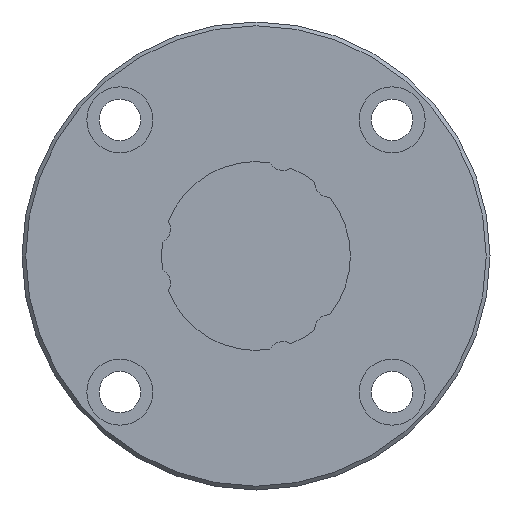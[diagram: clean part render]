
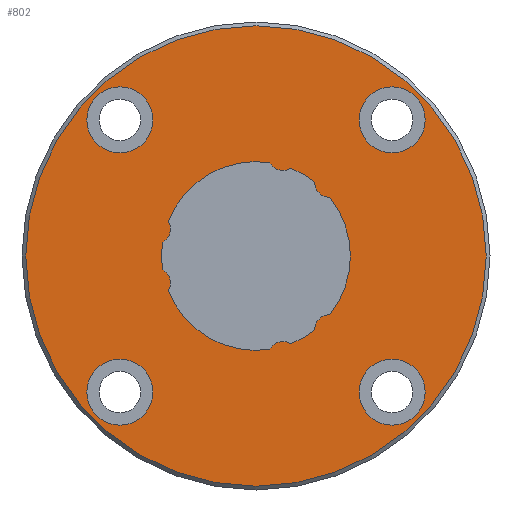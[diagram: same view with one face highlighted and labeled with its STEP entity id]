
A CAD part, left-side view. The second image highlights one B-rep face of the part: STEP entity #802.
In plain terms, the highlighted planar face has unit normal (-1, 0, 0).
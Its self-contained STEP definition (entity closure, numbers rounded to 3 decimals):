
#43=PLANE('',#905);
#174=ORIENTED_EDGE('',*,*,#346,.F.);
#175=ORIENTED_EDGE('',*,*,#347,.F.);
#176=ORIENTED_EDGE('',*,*,#348,.F.);
#177=ORIENTED_EDGE('',*,*,#349,.F.);
#178=ORIENTED_EDGE('',*,*,#350,.F.);
#179=ORIENTED_EDGE('',*,*,#351,.T.);
#180=ORIENTED_EDGE('',*,*,#352,.F.);
#181=ORIENTED_EDGE('',*,*,#353,.T.);
#182=ORIENTED_EDGE('',*,*,#354,.F.);
#183=ORIENTED_EDGE('',*,*,#355,.T.);
#184=ORIENTED_EDGE('',*,*,#356,.F.);
#185=ORIENTED_EDGE('',*,*,#357,.T.);
#186=ORIENTED_EDGE('',*,*,#358,.F.);
#187=ORIENTED_EDGE('',*,*,#359,.T.);
#188=ORIENTED_EDGE('',*,*,#360,.F.);
#189=ORIENTED_EDGE('',*,*,#361,.T.);
#190=ORIENTED_EDGE('',*,*,#362,.F.);
#346=EDGE_CURVE('',#438,#438,#514,.T.);
#347=EDGE_CURVE('',#439,#439,#515,.F.);
#348=EDGE_CURVE('',#440,#440,#516,.F.);
#349=EDGE_CURVE('',#441,#441,#517,.F.);
#350=EDGE_CURVE('',#442,#442,#518,.F.);
#351=EDGE_CURVE('',#443,#444,#519,.T.);
#352=EDGE_CURVE('',#445,#444,#520,.T.);
#353=EDGE_CURVE('',#445,#446,#521,.T.);
#354=EDGE_CURVE('',#447,#446,#522,.T.);
#355=EDGE_CURVE('',#447,#448,#523,.T.);
#356=EDGE_CURVE('',#449,#448,#524,.T.);
#357=EDGE_CURVE('',#449,#450,#525,.T.);
#358=EDGE_CURVE('',#451,#450,#526,.T.);
#359=EDGE_CURVE('',#451,#452,#527,.T.);
#360=EDGE_CURVE('',#453,#452,#528,.T.);
#361=EDGE_CURVE('',#453,#454,#529,.T.);
#362=EDGE_CURVE('',#443,#454,#530,.T.);
#438=VERTEX_POINT('',#1415);
#439=VERTEX_POINT('',#1417);
#440=VERTEX_POINT('',#1419);
#441=VERTEX_POINT('',#1421);
#442=VERTEX_POINT('',#1423);
#443=VERTEX_POINT('',#1425);
#444=VERTEX_POINT('',#1426);
#445=VERTEX_POINT('',#1428);
#446=VERTEX_POINT('',#1430);
#447=VERTEX_POINT('',#1432);
#448=VERTEX_POINT('',#1434);
#449=VERTEX_POINT('',#1436);
#450=VERTEX_POINT('',#1438);
#451=VERTEX_POINT('',#1440);
#452=VERTEX_POINT('',#1442);
#453=VERTEX_POINT('',#1444);
#454=VERTEX_POINT('',#1446);
#514=CIRCLE('',#906,61.);
#515=CIRCLE('',#907,8.75);
#516=CIRCLE('',#908,8.75);
#517=CIRCLE('',#909,8.75);
#518=CIRCLE('',#910,8.75);
#519=CIRCLE('',#911,25.);
#520=CIRCLE('',#912,3.969);
#521=CIRCLE('',#913,25.);
#522=CIRCLE('',#914,3.969);
#523=CIRCLE('',#915,25.);
#524=CIRCLE('',#916,3.969);
#525=CIRCLE('',#917,25.);
#526=CIRCLE('',#918,3.969);
#527=CIRCLE('',#919,25.);
#528=CIRCLE('',#920,3.969);
#529=CIRCLE('',#921,25.);
#530=CIRCLE('',#922,3.969);
#582=EDGE_LOOP('',(#174));
#583=EDGE_LOOP('',(#175));
#584=EDGE_LOOP('',(#176));
#585=EDGE_LOOP('',(#177));
#586=EDGE_LOOP('',(#178));
#587=EDGE_LOOP('',(#179,#180,#181,#182,#183,#184,#185,#186,#187,#188,#189,
#190));
#674=FACE_BOUND('',#582,.T.);
#675=FACE_BOUND('',#583,.T.);
#676=FACE_BOUND('',#584,.T.);
#677=FACE_BOUND('',#585,.T.);
#678=FACE_BOUND('',#586,.T.);
#679=FACE_BOUND('',#587,.T.);
#802=ADVANCED_FACE('',(#674,#675,#676,#677,#678,#679),#43,.F.);
#905=AXIS2_PLACEMENT_3D('',#1413,#1088,#1089);
#906=AXIS2_PLACEMENT_3D('',#1414,#1090,#1091);
#907=AXIS2_PLACEMENT_3D('',#1416,#1092,#1093);
#908=AXIS2_PLACEMENT_3D('',#1418,#1094,#1095);
#909=AXIS2_PLACEMENT_3D('',#1420,#1096,#1097);
#910=AXIS2_PLACEMENT_3D('',#1422,#1098,#1099);
#911=AXIS2_PLACEMENT_3D('',#1424,#1100,#1101);
#912=AXIS2_PLACEMENT_3D('',#1427,#1102,#1103);
#913=AXIS2_PLACEMENT_3D('',#1429,#1104,#1105);
#914=AXIS2_PLACEMENT_3D('',#1431,#1106,#1107);
#915=AXIS2_PLACEMENT_3D('',#1433,#1108,#1109);
#916=AXIS2_PLACEMENT_3D('',#1435,#1110,#1111);
#917=AXIS2_PLACEMENT_3D('',#1437,#1112,#1113);
#918=AXIS2_PLACEMENT_3D('',#1439,#1114,#1115);
#919=AXIS2_PLACEMENT_3D('',#1441,#1116,#1117);
#920=AXIS2_PLACEMENT_3D('',#1443,#1118,#1119);
#921=AXIS2_PLACEMENT_3D('',#1445,#1120,#1121);
#922=AXIS2_PLACEMENT_3D('',#1447,#1122,#1123);
#1088=DIRECTION('',(1.,0.,0.));
#1089=DIRECTION('',(0.,0.,-1.));
#1090=DIRECTION('',(1.,0.,0.));
#1091=DIRECTION('',(0.,0.,-1.));
#1092=DIRECTION('',(1.,0.,0.));
#1093=DIRECTION('',(0.,0.,-1.));
#1094=DIRECTION('',(1.,0.,0.));
#1095=DIRECTION('',(0.,0.,-1.));
#1096=DIRECTION('',(1.,0.,0.));
#1097=DIRECTION('',(0.,0.,-1.));
#1098=DIRECTION('',(1.,0.,0.));
#1099=DIRECTION('',(0.,0.,-1.));
#1100=DIRECTION('',(1.,0.,0.));
#1101=DIRECTION('',(0.,0.,-1.));
#1102=DIRECTION('',(1.,0.,0.));
#1103=DIRECTION('',(0.,0.,-1.));
#1104=DIRECTION('',(1.,0.,0.));
#1105=DIRECTION('',(0.,0.,-1.));
#1106=DIRECTION('',(1.,0.,0.));
#1107=DIRECTION('',(0.,0.,-1.));
#1108=DIRECTION('',(1.,0.,0.));
#1109=DIRECTION('',(0.,0.,-1.));
#1110=DIRECTION('',(1.,0.,0.));
#1111=DIRECTION('',(0.,0.,-1.));
#1112=DIRECTION('',(1.,0.,0.));
#1113=DIRECTION('',(0.,0.,-1.));
#1114=DIRECTION('',(1.,0.,0.));
#1115=DIRECTION('',(0.,0.,-1.));
#1116=DIRECTION('',(1.,0.,0.));
#1117=DIRECTION('',(0.,0.,-1.));
#1118=DIRECTION('',(1.,0.,0.));
#1119=DIRECTION('',(0.,0.,-1.));
#1120=DIRECTION('',(1.,0.,0.));
#1121=DIRECTION('',(0.,0.,-1.));
#1122=DIRECTION('',(1.,0.,0.));
#1123=DIRECTION('',(0.,0.,-1.));
#1413=CARTESIAN_POINT('',(0.,0.,0.));
#1414=CARTESIAN_POINT('',(0.,0.,0.));
#1415=CARTESIAN_POINT('',(0.,0.,-61.));
#1416=CARTESIAN_POINT('',(0.,-36.062,36.062));
#1417=CARTESIAN_POINT('',(0.,-36.062,27.312));
#1418=CARTESIAN_POINT('',(0.,-36.062,-36.062));
#1419=CARTESIAN_POINT('',(0.,-36.062,-44.812));
#1420=CARTESIAN_POINT('',(0.,36.062,-36.062));
#1421=CARTESIAN_POINT('',(0.,36.062,-44.812));
#1422=CARTESIAN_POINT('',(0.,36.062,36.062));
#1423=CARTESIAN_POINT('',(0.,36.062,27.312));
#1424=CARTESIAN_POINT('',(0.,0.,0.));
#1425=CARTESIAN_POINT('',(0.,24.728,-3.676));
#1426=CARTESIAN_POINT('',(0.,24.728,3.676));
#1427=CARTESIAN_POINT('',(0.,26.66,7.143));
#1428=CARTESIAN_POINT('',(0.,23.253,9.181));
#1429=CARTESIAN_POINT('',(0.,0.,0.));
#1430=CARTESIAN_POINT('',(0.,-3.676,24.728));
#1431=CARTESIAN_POINT('',(0.,-7.143,26.66));
#1432=CARTESIAN_POINT('',(0.,-9.181,23.253));
#1433=CARTESIAN_POINT('',(0.,0.,0.));
#1434=CARTESIAN_POINT('',(0.,-15.548,19.577));
#1435=CARTESIAN_POINT('',(0.,-19.516,19.516));
#1436=CARTESIAN_POINT('',(0.,-19.577,15.548));
#1437=CARTESIAN_POINT('',(0.,0.,0.));
#1438=CARTESIAN_POINT('',(0.,-19.577,-15.548));
#1439=CARTESIAN_POINT('',(0.,-19.516,-19.516));
#1440=CARTESIAN_POINT('',(0.,-15.548,-19.577));
#1441=CARTESIAN_POINT('',(0.,0.,0.));
#1442=CARTESIAN_POINT('',(0.,-9.181,-23.253));
#1443=CARTESIAN_POINT('',(0.,-7.143,-26.66));
#1444=CARTESIAN_POINT('',(0.,-3.676,-24.728));
#1445=CARTESIAN_POINT('',(0.,0.,0.));
#1446=CARTESIAN_POINT('',(0.,23.253,-9.181));
#1447=CARTESIAN_POINT('',(0.,26.66,-7.143));
